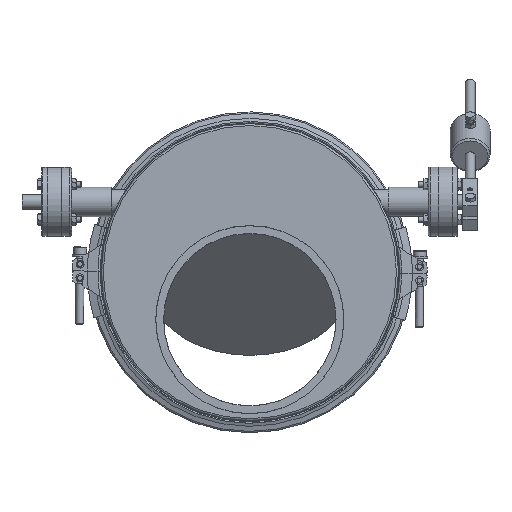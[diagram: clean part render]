
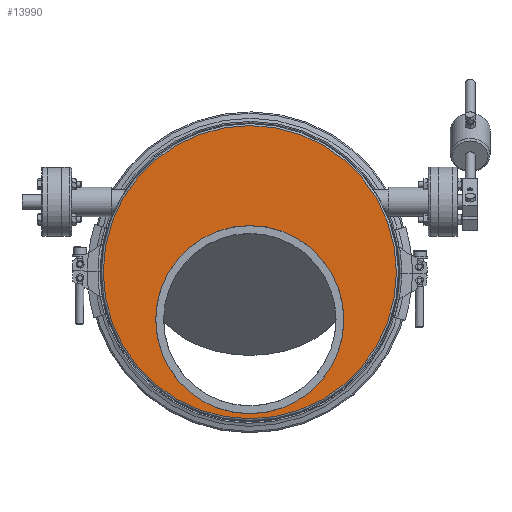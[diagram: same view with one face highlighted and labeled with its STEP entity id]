
A CAD part, top view. The second image highlights one B-rep face of the part: STEP entity #13990.
In plain terms, the highlighted planar face has unit normal (0, 0, 1).
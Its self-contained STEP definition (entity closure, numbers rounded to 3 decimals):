
#13849=CARTESIAN_POINT('',(-148.0,48.,25.0));
#13850=VERTEX_POINT('',#13849);
#13851=CARTESIAN_POINT('',(0.0,48.,25.0));
#13852=DIRECTION('',(0.0,0.0,-1.0));
#13853=DIRECTION('',(1.0,0.0,0.0));
#13854=AXIS2_PLACEMENT_3D('',#13851,#13852,#13853);
#13855=CIRCLE('',#13854,148.0);
#13856=EDGE_CURVE('',#13850,#13850,#13855,.T.);
#13971=CARTESIAN_POINT('',(0.0,48.,25.0));
#13972=DIRECTION('',(0.0,0.0,1.0));
#13973=DIRECTION('',(1.0,0.0,0.0));
#13974=AXIS2_PLACEMENT_3D('',#13971,#13972,#13973);
#13975=PLANE('',#13974);
#13976=ORIENTED_EDGE('',*,*,#13856,.F.);
#13977=EDGE_LOOP('',(#13976));
#13978=FACE_OUTER_BOUND('',#13977,.T.);
#13979=CARTESIAN_POINT('',(-89.0,0.,25.0));
#13980=VERTEX_POINT('',#13979);
#13981=CARTESIAN_POINT('',(0.0,0.0,25.0));
#13982=DIRECTION('',(0.0,0.0,1.0));
#13983=DIRECTION('',(-1.0,0.0,0.0));
#13984=AXIS2_PLACEMENT_3D('',#13981,#13982,#13983);
#13985=CIRCLE('',#13984,89.0);
#13986=EDGE_CURVE('',#13980,#13980,#13985,.T.);
#13987=ORIENTED_EDGE('',*,*,#13986,.F.);
#13988=EDGE_LOOP('',(#13987));
#13989=FACE_BOUND('',#13988,.T.);
#13990=ADVANCED_FACE('',(#13978,#13989),#13975,.T.);
